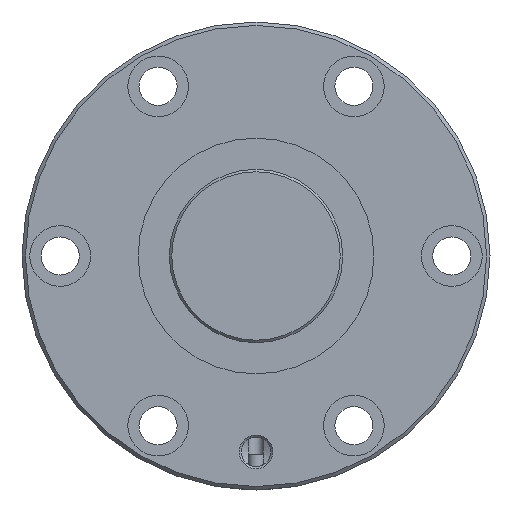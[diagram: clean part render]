
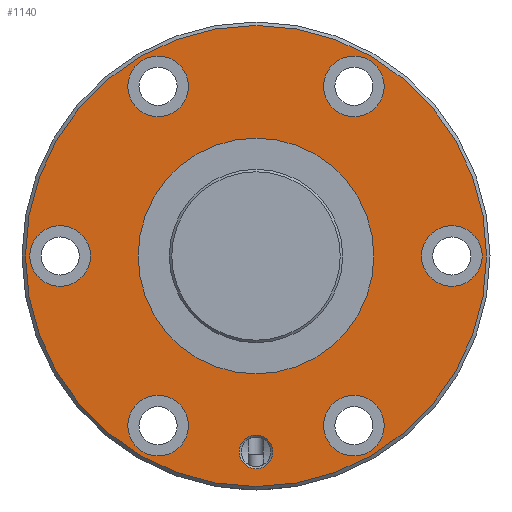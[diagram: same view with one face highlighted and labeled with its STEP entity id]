
A CAD part, left-side view. The second image highlights one B-rep face of the part: STEP entity #1140.
In plain terms, the highlighted planar face has unit normal (-1, 0, 0).
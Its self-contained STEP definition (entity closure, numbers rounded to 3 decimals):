
#200=ORIENTED_EDGE('',*,*,#451,.T.);
#201=ORIENTED_EDGE('',*,*,#452,.T.);
#202=ORIENTED_EDGE('',*,*,#453,.T.);
#203=ORIENTED_EDGE('',*,*,#454,.T.);
#204=ORIENTED_EDGE('',*,*,#455,.T.);
#205=ORIENTED_EDGE('',*,*,#456,.T.);
#206=ORIENTED_EDGE('',*,*,#457,.T.);
#207=ORIENTED_EDGE('',*,*,#458,.T.);
#208=ORIENTED_EDGE('',*,*,#450,.F.);
#450=EDGE_CURVE('',#577,#577,#679,.T.);
#451=EDGE_CURVE('',#578,#578,#680,.T.);
#452=EDGE_CURVE('',#579,#579,#681,.F.);
#453=EDGE_CURVE('',#580,#580,#682,.T.);
#454=EDGE_CURVE('',#581,#581,#683,.T.);
#455=EDGE_CURVE('',#582,#582,#684,.T.);
#456=EDGE_CURVE('',#583,#583,#685,.T.);
#457=EDGE_CURVE('',#584,#584,#686,.T.);
#458=EDGE_CURVE('',#585,#585,#687,.T.);
#577=VERTEX_POINT('',#1934);
#578=VERTEX_POINT('',#1937);
#579=VERTEX_POINT('',#1939);
#580=VERTEX_POINT('',#1941);
#581=VERTEX_POINT('',#1943);
#582=VERTEX_POINT('',#1945);
#583=VERTEX_POINT('',#1947);
#584=VERTEX_POINT('',#1949);
#585=VERTEX_POINT('',#1951);
#679=CIRCLE('',#1268,66.5);
#680=CIRCLE('',#1270,34.);
#681=CIRCLE('',#1271,8.75);
#682=CIRCLE('',#1272,4.864);
#683=CIRCLE('',#1273,8.75);
#684=CIRCLE('',#1274,8.75);
#685=CIRCLE('',#1275,8.75);
#686=CIRCLE('',#1276,8.75);
#687=CIRCLE('',#1277,8.75);
#774=EDGE_LOOP('',(#200));
#775=EDGE_LOOP('',(#201));
#776=EDGE_LOOP('',(#202));
#777=EDGE_LOOP('',(#203));
#778=EDGE_LOOP('',(#204));
#779=EDGE_LOOP('',(#205));
#780=EDGE_LOOP('',(#206));
#781=EDGE_LOOP('',(#207));
#782=EDGE_LOOP('',(#208));
#948=FACE_BOUND('',#774,.T.);
#949=FACE_BOUND('',#775,.T.);
#950=FACE_BOUND('',#776,.T.);
#951=FACE_BOUND('',#777,.T.);
#952=FACE_BOUND('',#778,.T.);
#953=FACE_BOUND('',#779,.T.);
#954=FACE_BOUND('',#780,.T.);
#955=FACE_BOUND('',#781,.T.);
#956=FACE_BOUND('',#782,.T.);
#1100=PLANE('',#1269);
#1140=ADVANCED_FACE('',(#948,#949,#950,#951,#952,#953,#954,#955,#956),#1100,
 .T.);
#1268=AXIS2_PLACEMENT_3D('',#1933,#1483,#1484);
#1269=AXIS2_PLACEMENT_3D('',#1935,#1485,#1486);
#1270=AXIS2_PLACEMENT_3D('',#1936,#1487,#1488);
#1271=AXIS2_PLACEMENT_3D('',#1938,#1489,#1490);
#1272=AXIS2_PLACEMENT_3D('',#1940,#1491,#1492);
#1273=AXIS2_PLACEMENT_3D('',#1942,#1493,#1494);
#1274=AXIS2_PLACEMENT_3D('',#1944,#1495,#1496);
#1275=AXIS2_PLACEMENT_3D('',#1946,#1497,#1498);
#1276=AXIS2_PLACEMENT_3D('',#1948,#1499,#1500);
#1277=AXIS2_PLACEMENT_3D('',#1950,#1501,#1502);
#1483=DIRECTION('',(1.,0.,0.));
#1484=DIRECTION('',(0.,0.,-1.));
#1485=DIRECTION('',(-1.,0.,0.));
#1486=DIRECTION('',(0.,0.,1.));
#1487=DIRECTION('',(1.,0.,0.));
#1488=DIRECTION('',(0.,0.,-1.));
#1489=DIRECTION('',(-1.,0.,0.));
#1490=DIRECTION('',(0.,0.,1.));
#1491=DIRECTION('',(1.,0.,0.));
#1492=DIRECTION('',(0.,0.,-1.));
#1493=DIRECTION('',(1.,0.,0.));
#1494=DIRECTION('',(0.,0.,-1.));
#1495=DIRECTION('',(1.,0.,0.));
#1496=DIRECTION('',(0.,0.,-1.));
#1497=DIRECTION('',(1.,0.,0.));
#1498=DIRECTION('',(0.,0.,-1.));
#1499=DIRECTION('',(1.,0.,0.));
#1500=DIRECTION('',(0.,0.,-1.));
#1501=DIRECTION('',(1.,0.,0.));
#1502=DIRECTION('',(0.,0.,-1.));
#1933=CARTESIAN_POINT('',(0.,0.,0.));
#1934=CARTESIAN_POINT('',(0.,0.,-66.5));
#1935=CARTESIAN_POINT('',(0.,66.5,0.));
#1936=CARTESIAN_POINT('',(0.,0.,0.));
#1937=CARTESIAN_POINT('',(0.,0.,-34.));
#1938=CARTESIAN_POINT('',(0.,56.5,0.));
#1939=CARTESIAN_POINT('',(0.,56.5,8.75));
#1940=CARTESIAN_POINT('',(0.,0.,-56.5));
#1941=CARTESIAN_POINT('',(0.,0.,-61.364));
#1942=CARTESIAN_POINT('',(0.,-56.5,0.));
#1943=CARTESIAN_POINT('',(0.,-56.5,-8.75));
#1944=CARTESIAN_POINT('',(0.,28.25,48.93));
#1945=CARTESIAN_POINT('',(0.,28.25,40.18));
#1946=CARTESIAN_POINT('',(0.,-28.25,-48.93));
#1947=CARTESIAN_POINT('',(0.,-28.25,-57.68));
#1948=CARTESIAN_POINT('',(0.,-28.25,48.93));
#1949=CARTESIAN_POINT('',(0.,-28.25,40.18));
#1950=CARTESIAN_POINT('',(0.,28.25,-48.93));
#1951=CARTESIAN_POINT('',(0.,28.25,-57.68));
